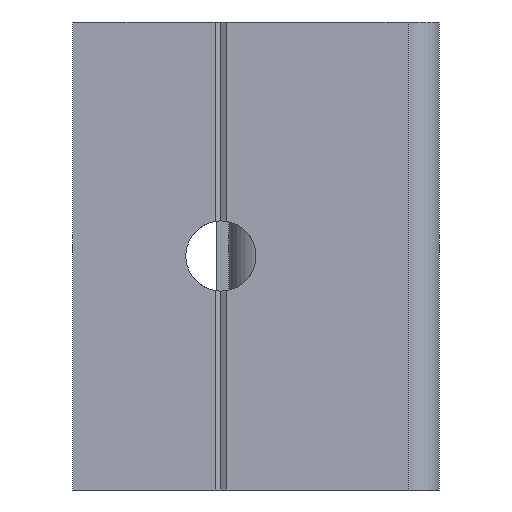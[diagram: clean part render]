
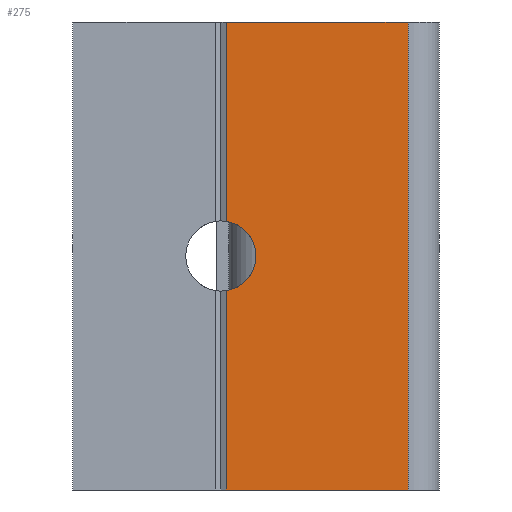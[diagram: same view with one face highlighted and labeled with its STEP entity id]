
A CAD part, front view. The second image highlights one B-rep face of the part: STEP entity #275.
In plain terms, the highlighted planar face has unit normal (0, -1, 0).
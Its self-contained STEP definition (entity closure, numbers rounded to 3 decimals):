
#6 = DIRECTION ( 'NONE',  ( 1., 0., 0. ) ) ;
#21 = ORIENTED_EDGE ( 'NONE', *, *, #1206, .T. ) ;
#67 = DIRECTION ( 'NONE',  ( 0., 0., -1. ) ) ;
#156 = CARTESIAN_POINT ( 'NONE',  ( 60.204, -35.425, 60. ) ) ;
#158 = CARTESIAN_POINT ( 'NONE',  ( 83.511, -35.425, 60. ) ) ;
#184 = ORIENTED_EDGE ( 'NONE', *, *, #517, .T. ) ;
#237 = DIRECTION ( 'NONE',  ( -1., 0., 0. ) ) ;
#253 = LINE ( 'NONE', #732, #846 ) ;
#262 = LINE ( 'NONE', #955, #1180 ) ;
#275 = ADVANCED_FACE ( 'NONE', ( #1376 ), #1455, .F. ) ;
#323 = LINE ( 'NONE', #895, #1200 ) ;
#331 = DIRECTION ( 'NONE',  ( 0., 0., -1. ) ) ;
#354 = CARTESIAN_POINT ( 'NONE',  ( 60.204, -35.425, 0. ) ) ;
#403 = VECTOR ( 'NONE', #331, 1000. ) ;
#422 = ORIENTED_EDGE ( 'NONE', *, *, #1313, .F. ) ;
#431 = AXIS2_PLACEMENT_3D ( 'NONE', #1308, #951, #237 ) ;
#455 = ORIENTED_EDGE ( 'NONE', *, *, #937, .T. ) ;
#463 = CARTESIAN_POINT ( 'NONE',  ( 59.511, -35.425, 30. ) ) ;
#503 = ORIENTED_EDGE ( 'NONE', *, *, #1009, .F. ) ;
#504 = CIRCLE ( 'NONE', #1559, 4.5 ) ;
#517 = EDGE_CURVE ( 'NONE', #1272, #710, #262, .T. ) ;
#562 = ORIENTED_EDGE ( 'NONE', *, *, #681, .T. ) ;
#644 = VERTEX_POINT ( 'NONE', #1250 ) ;
#681 = EDGE_CURVE ( 'NONE', #1234, #1257, #504, .T. ) ;
#698 = CARTESIAN_POINT ( 'NONE',  ( 60.204, -35.425, 34.446 ) ) ;
#710 = VERTEX_POINT ( 'NONE', #817 ) ;
#718 = CARTESIAN_POINT ( 'NONE',  ( 60.204, -35.425, 25.554 ) ) ;
#732 = CARTESIAN_POINT ( 'NONE',  ( 60.204, -35.425, 60. ) ) ;
#817 = CARTESIAN_POINT ( 'NONE',  ( 83.511, -35.425, 0. ) ) ;
#846 = VECTOR ( 'NONE', #1338, 1000. ) ;
#895 = CARTESIAN_POINT ( 'NONE',  ( 83.511, -35.425, 60. ) ) ;
#899 = LINE ( 'NONE', #156, #932 ) ;
#932 = VECTOR ( 'NONE', #1120, 1000. ) ;
#937 = EDGE_CURVE ( 'NONE', #1257, #1272, #899, .T. ) ;
#951 = DIRECTION ( 'NONE',  ( 0., 1., 0. ) ) ;
#955 = CARTESIAN_POINT ( 'NONE',  ( 60.204, -35.425, 0. ) ) ;
#1009 = EDGE_CURVE ( 'NONE', #1465, #710, #323, .T. ) ;
#1043 = LINE ( 'NONE', #1045, #403 ) ;
#1045 = CARTESIAN_POINT ( 'NONE',  ( 60.204, -35.425, 60. ) ) ;
#1055 = DIRECTION ( 'NONE',  ( 0., 1., 0. ) ) ;
#1120 = DIRECTION ( 'NONE',  ( 0., 0., -1. ) ) ;
#1180 = VECTOR ( 'NONE', #6, 1000. ) ;
#1200 = VECTOR ( 'NONE', #67, 1000. ) ;
#1206 = EDGE_CURVE ( 'NONE', #644, #1234, #1043, .T. ) ;
#1234 = VERTEX_POINT ( 'NONE', #698 ) ;
#1250 = CARTESIAN_POINT ( 'NONE',  ( 60.204, -35.425, 60. ) ) ;
#1257 = VERTEX_POINT ( 'NONE', #718 ) ;
#1272 = VERTEX_POINT ( 'NONE', #354 ) ;
#1308 = CARTESIAN_POINT ( 'NONE',  ( 60.204, -35.425, 60. ) ) ;
#1313 = EDGE_CURVE ( 'NONE', #644, #1465, #253, .T. ) ;
#1338 = DIRECTION ( 'NONE',  ( 1., 0., 0. ) ) ;
#1376 = FACE_OUTER_BOUND ( 'NONE', #1417, .T. ) ;
#1417 = EDGE_LOOP ( 'NONE', ( #21, #562, #455, #184, #503, #422 ) ) ;
#1431 = DIRECTION ( 'NONE',  ( -1., 0., 0. ) ) ;
#1455 = PLANE ( 'NONE',  #431 ) ;
#1465 = VERTEX_POINT ( 'NONE', #158 ) ;
#1559 = AXIS2_PLACEMENT_3D ( 'NONE', #463, #1055, #1431 ) ;
